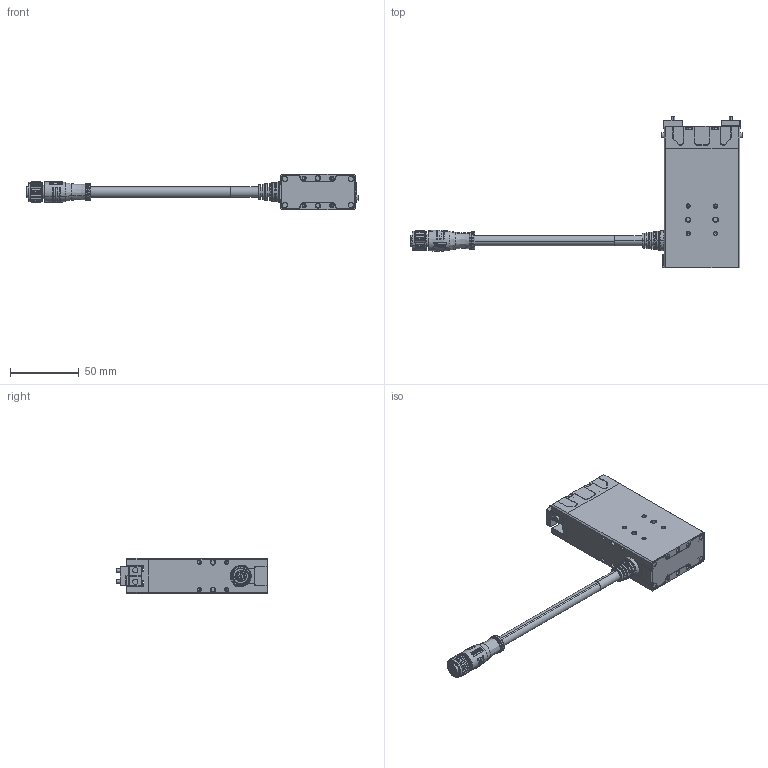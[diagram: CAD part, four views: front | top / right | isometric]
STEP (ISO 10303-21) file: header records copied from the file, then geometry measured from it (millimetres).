
FILE_DESCRIPTION (( 'STEP AP214' ), '1' );
FILE_NAME ('PGE-15-26-W-S.STEP', '2023-07-19T03:44:21', ( '' ), ( '' ), 'SwSTEP 2.0', 'SolidWorks 2020', '' );
FILE_SCHEMA (( 'AUTOMOTIVE_DESIGN' ));
Length unit declared in the file: millimetre
Products named in the file (3): PGE5-忒硌價釱; 耜堤褲; PGE-15-26-W-S
Assembly tree (3 placements, depth 2):
  PGE-15-26-W-S
    耜堤褲
    PGE5-忒硌價釱  x2
Bounding box: 241.7 x 110.5 x 26 mm (x, y, z)
Volume: 8242.9 mm3; surface area: 44452.4 mm2
Topology: 4 solids, 27 shells, 1626 faces, 4014 edges, 2471 vertices
Faces by surface type: plane 645, cylinder 409, cone 294, bspline 277, sphere 1
Full cylindrical faces by diameter (mm): 11.1 x3
Entity records: 75795 total; most frequent: CARTESIAN_POINT 25798, ORIENTED_EDGE 7318, DIRECTION 6247, EDGE_CURVE 3663, VERTEX_POINT 2309, AXIS2_PLACEMENT_3D 2269, LINE 1709, VECTOR 1709
